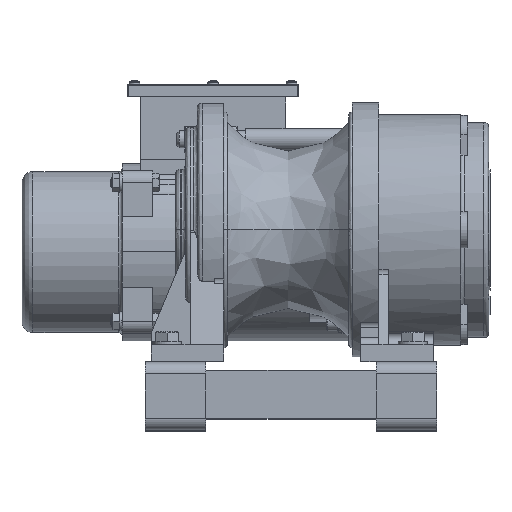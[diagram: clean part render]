
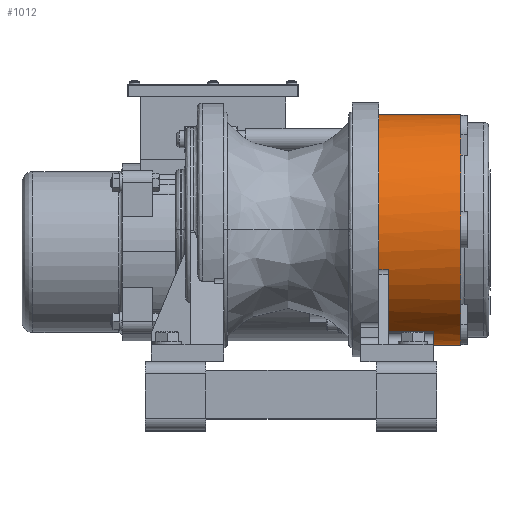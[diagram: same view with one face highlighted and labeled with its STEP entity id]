
A CAD part, top view. The second image highlights one B-rep face of the part: STEP entity #1012.
In plain terms, the highlighted cylindrical face has radius 95 mm (diameter 190 mm), a partial arc.
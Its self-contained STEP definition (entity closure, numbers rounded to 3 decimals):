
#1012=ADVANCED_FACE('',(#11619,#11620),#11618,.T.);
#11618=CYLINDRICAL_SURFACE('',#27570,95.);
#11619=FACE_OUTER_BOUND('',#27571,.T.);
#11620=FACE_BOUND('',#27572,.T.);
#27567=CARTESIAN_POINT('',(-1270.041,-1567.573,-1462.683));
#27568=DIRECTION('',(-1.,0.,0.));
#27569=DIRECTION('',(0.,-1.,0.));
#27570=AXIS2_PLACEMENT_3D('',#27567,#27568,#27569);
#27571=EDGE_LOOP('',(#39680,#39681,#39682,#39683,#39684,#39685,#39686,#39687,#39688,#39689,#39690));
#27572=EDGE_LOOP('',(#39691,#39692,#39693,#39694));
#39680=ORIENTED_EDGE('',*,*,#45868,.T.);
#39681=ORIENTED_EDGE('',*,*,#45867,.T.);
#39682=ORIENTED_EDGE('',*,*,#45866,.T.);
#39683=ORIENTED_EDGE('',*,*,#45875,.T.);
#39684=ORIENTED_EDGE('',*,*,#48093,.F.);
#39685=ORIENTED_EDGE('',*,*,#48094,.T.);
#39686=ORIENTED_EDGE('',*,*,#48095,.T.);
#39687=ORIENTED_EDGE('',*,*,#48096,.T.);
#39688=ORIENTED_EDGE('',*,*,#48097,.F.);
#39689=ORIENTED_EDGE('',*,*,#48098,.T.);
#39690=ORIENTED_EDGE('',*,*,#48099,.T.);
#39691=ORIENTED_EDGE('',*,*,#48100,.F.);
#39692=ORIENTED_EDGE('',*,*,#48101,.F.);
#39693=ORIENTED_EDGE('',*,*,#48102,.T.);
#39694=ORIENTED_EDGE('',*,*,#48103,.F.);
#45866=EDGE_CURVE('',#55092,#55294,#55745,.T.);
#45867=EDGE_CURVE('',#55193,#55092,#55751,.T.);
#45868=EDGE_CURVE('',#55757,#55193,#55758,.T.);
#45875=EDGE_CURVE('',#55294,#55796,#55803,.T.);
#48093=EDGE_CURVE('',#70674,#55796,#70675,.T.);
#48094=EDGE_CURVE('',#70674,#70681,#70682,.T.);
#48095=EDGE_CURVE('',#70681,#70688,#70689,.T.);
#48096=EDGE_CURVE('',#70688,#70695,#70696,.T.);
#48097=EDGE_CURVE('',#70702,#70695,#70703,.T.);
#48098=EDGE_CURVE('',#70702,#70709,#70710,.T.);
#48099=EDGE_CURVE('',#70709,#55757,#70716,.T.);
#48100=EDGE_CURVE('',#70722,#70723,#70724,.T.);
#48101=EDGE_CURVE('',#70730,#70722,#70731,.T.);
#48102=EDGE_CURVE('',#70730,#70737,#70738,.T.);
#48103=EDGE_CURVE('',#70723,#70737,#70744,.T.);
#55092=VERTEX_POINT('',#86918);
#55193=VERTEX_POINT('',#86981);
#55294=VERTEX_POINT('',#87044);
#55745=CIRCLE('',#87328,95.);
#55751=CIRCLE('',#87332,95.);
#55757=VERTEX_POINT('',#87333);
#55758=CIRCLE('',#87337,95.);
#55796=VERTEX_POINT('',#87359);
#55803=CIRCLE('',#87366,95.);
#70674=VERTEX_POINT('',#97749);
#70675=LINE('',#97750,#97751);
#70681=VERTEX_POINT('',#97753);
#70682=CIRCLE('',#97757,95.);
#70688=VERTEX_POINT('',#97758);
#70689=LINE('',#97759,#97760);
#70695=VERTEX_POINT('',#97762);
#70696=CIRCLE('',#97766,95.);
#70702=VERTEX_POINT('',#97767);
#70703=LINE('',#97768,#97769);
#70709=VERTEX_POINT('',#97771);
#70710=CIRCLE('',#97775,95.);
#70716=LINE('',#97776,#97777);
#70722=VERTEX_POINT('',#97779);
#70723=VERTEX_POINT('',#97780);
#70724=CIRCLE('',#97784,95.);
#70730=VERTEX_POINT('',#97785);
#70731=LINE('',#97786,#97787);
#70737=VERTEX_POINT('',#97789);
#70738=CIRCLE('',#97793,95.);
#70744=LINE('',#97794,#97795);
#86918=CARTESIAN_POINT('',(-1249.041,-1567.573,-1367.683));
#86981=CARTESIAN_POINT('',(-1249.041,-1662.211,-1454.404));
#87044=CARTESIAN_POINT('',(-1249.041,-1472.934,-1454.404));
#87325=CARTESIAN_POINT('',(-1249.041,-1567.573,-1462.683));
#87326=DIRECTION('',(-1.,0.,0.));
#87327=DIRECTION('',(0.,1.,0.));
#87328=AXIS2_PLACEMENT_3D('',#87325,#87326,#87327);
#87329=CARTESIAN_POINT('',(-1249.041,-1567.573,-1462.683));
#87330=DIRECTION('',(-1.,0.,0.));
#87331=DIRECTION('',(0.,1.,0.));
#87332=AXIS2_PLACEMENT_3D('',#87329,#87330,#87331);
#87333=CARTESIAN_POINT('',(-1249.041,-1662.573,-1462.683));
#87334=CARTESIAN_POINT('',(-1249.041,-1567.573,-1462.683));
#87335=DIRECTION('',(-1.,0.,0.));
#87336=DIRECTION('',(0.,1.,0.));
#87337=AXIS2_PLACEMENT_3D('',#87334,#87335,#87336);
#87359=CARTESIAN_POINT('',(-1249.041,-1472.573,-1462.683));
#87363=CARTESIAN_POINT('',(-1249.041,-1567.573,-1462.683));
#87364=DIRECTION('',(-1.,0.,0.));
#87365=DIRECTION('',(0.,1.,0.));
#87366=AXIS2_PLACEMENT_3D('',#87363,#87364,#87365);
#97749=CARTESIAN_POINT('',(-1317.041,-1472.573,-1462.683));
#97750=CARTESIAN_POINT('',(-1317.041,-1472.573,-1462.683));
#97751=VECTOR('',#97752,68.);
#97752=DIRECTION('',(1.,0.,0.));
#97753=CARTESIAN_POINT('',(-1317.041,-1600.743,-1373.662));
#97754=CARTESIAN_POINT('',(-1317.041,-1567.573,-1462.683));
#97755=DIRECTION('',(1.,0.,0.));
#97756=DIRECTION('',(0.,-1.,0.));
#97757=AXIS2_PLACEMENT_3D('',#97754,#97755,#97756);
#97758=CARTESIAN_POINT('',(-1309.041,-1600.743,-1373.662));
#97759=CARTESIAN_POINT('',(-1317.041,-1600.743,-1373.662));
#97760=VECTOR('',#97761,8.);
#97761=DIRECTION('',(1.,0.,0.));
#97762=CARTESIAN_POINT('',(-1309.041,-1651.286,-1417.771));
#97763=CARTESIAN_POINT('',(-1309.041,-1567.573,-1462.683));
#97764=DIRECTION('',(1.,0.,0.));
#97765=DIRECTION('',(0.,-1.,0.));
#97766=AXIS2_PLACEMENT_3D('',#97763,#97764,#97765);
#97767=CARTESIAN_POINT('',(-1317.041,-1651.286,-1417.771));
#97768=CARTESIAN_POINT('',(-1317.041,-1651.286,-1417.771));
#97769=VECTOR('',#97770,8.);
#97770=DIRECTION('',(1.,0.,0.));
#97771=CARTESIAN_POINT('',(-1317.041,-1662.573,-1462.683));
#97772=CARTESIAN_POINT('',(-1317.041,-1567.573,-1462.683));
#97773=DIRECTION('',(1.,0.,0.));
#97774=DIRECTION('',(0.,-1.,0.));
#97775=AXIS2_PLACEMENT_3D('',#97772,#97773,#97774);
#97776=CARTESIAN_POINT('',(-1317.041,-1662.573,-1462.683));
#97777=VECTOR('',#97778,68.);
#97778=DIRECTION('',(1.,0.,0.));
#97779=CARTESIAN_POINT('',(-1272.041,-1653.544,-1422.262));
#97780=CARTESIAN_POINT('',(-1272.041,-1652.016,-1419.159));
#97781=CARTESIAN_POINT('',(-1272.041,-1567.573,-1462.683));
#97782=DIRECTION('',(-1.,0.,0.));
#97783=DIRECTION('',(0.,1.,0.));
#97784=AXIS2_PLACEMENT_3D('',#97781,#97782,#97783);
#97785=CARTESIAN_POINT('',(-1309.041,-1653.544,-1422.262));
#97786=CARTESIAN_POINT('',(-1309.041,-1653.544,-1422.262));
#97787=VECTOR('',#97788,37.);
#97788=DIRECTION('',(1.,0.,0.));
#97789=CARTESIAN_POINT('',(-1309.041,-1652.016,-1419.159));
#97790=CARTESIAN_POINT('',(-1309.041,-1567.573,-1462.683));
#97791=DIRECTION('',(-1.,0.,0.));
#97792=DIRECTION('',(0.,1.,0.));
#97793=AXIS2_PLACEMENT_3D('',#97790,#97791,#97792);
#97794=CARTESIAN_POINT('',(-1272.041,-1652.016,-1419.159));
#97795=VECTOR('',#97796,37.);
#97796=DIRECTION('',(-1.,0.,0.));
